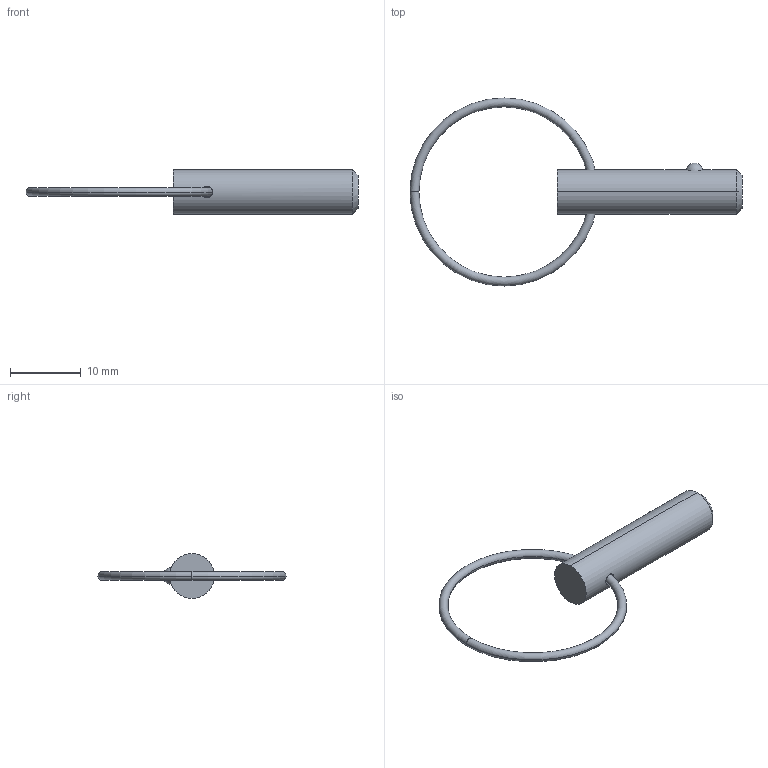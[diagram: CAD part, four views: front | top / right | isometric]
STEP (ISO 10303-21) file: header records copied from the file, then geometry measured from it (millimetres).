
FILE_DESCRIPTION (( 'STEP AP203' ), '1' );
FILE_NAME ('33012.W2505.step', '2024-11-01T14:06:46', ( '' ), ( '' ), 'SwSTEP 2.0', 'SolidWorks 2019', '' );
FILE_SCHEMA (( 'CONFIG_CONTROL_DESIGN' ));
Length unit declared in the file: millimetre
Products named in the file (3): Part1_33012.W2505; Part2_33012.W2505; 33012.W2505
Assembly tree (2 placements, depth 2):
  33012.W2505
    Part1_33012.W2505
    Part2_33012.W2505
Bounding box: 47.07 x 26.67 x 6.35 mm (x, y, z)
Volume: 915.4 mm3; surface area: 925.1 mm2
Topology: 2 solids, 2 shells, 16 faces, 31 edges, 18 vertices
Faces by surface type: torus 8, sphere 2, cone 2, cylinder 2, plane 2
Entity records: 811 total; most frequent: CARTESIAN_POINT 168, DIRECTION 88, ORIENTED_EDGE 62, AXIS2_PLACEMENT_3D 42, EDGE_CURVE 31, PERSON_AND_ORGANIZATION 26, CIRCLE 21, DATE_AND_TIME 19
